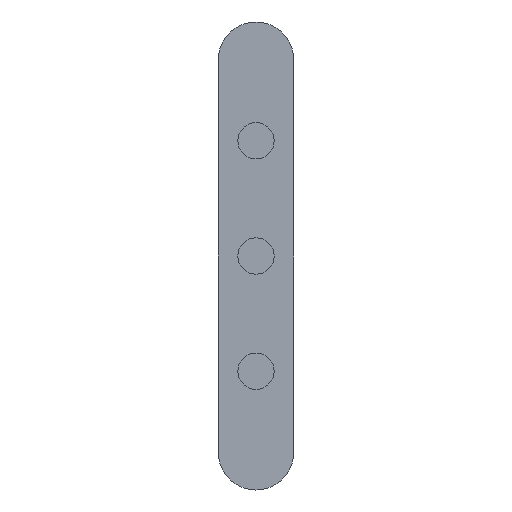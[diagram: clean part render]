
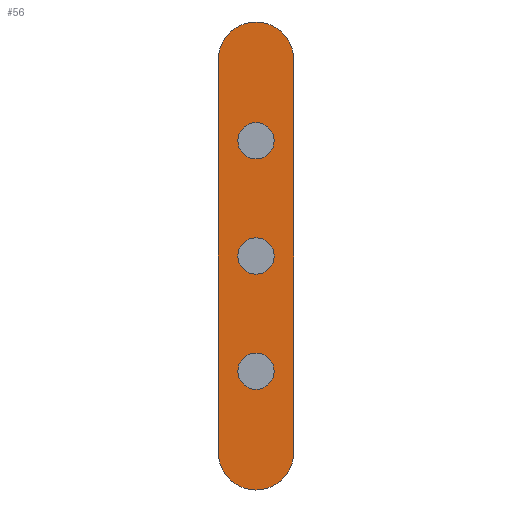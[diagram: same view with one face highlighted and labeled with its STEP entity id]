
A CAD part, left-side view. The second image highlights one B-rep face of the part: STEP entity #56.
In plain terms, the highlighted planar face has unit normal (-1, 0, 0).
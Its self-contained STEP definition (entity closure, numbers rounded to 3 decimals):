
#56=ADVANCED_FACE('',(#94,#96,#98,#100),#102,.F.);
#94=FACE_BOUND('',#95,.T.);
#95=EDGE_LOOP('',(#183,#184,#185,#186));
#96=FACE_BOUND('',#97,.T.);
#97=EDGE_LOOP('',(#187));
#98=FACE_BOUND('',#99,.T.);
#99=EDGE_LOOP('',(#188));
#100=FACE_BOUND('',#101,.T.);
#101=EDGE_LOOP('',(#189));
#102=PLANE('',#103);
#103=AXIS2_PLACEMENT_3D('',#104,#105,#106);
#104=CARTESIAN_POINT('',(10.,0.,0.));
#105=DIRECTION('',(1.,0.,0.));
#106=DIRECTION('',(0.,0.,1.));
#183=ORIENTED_EDGE('',*,*,#227,.F.);
#184=ORIENTED_EDGE('',*,*,#228,.F.);
#185=ORIENTED_EDGE('',*,*,#229,.F.);
#186=ORIENTED_EDGE('',*,*,#230,.F.);
#187=ORIENTED_EDGE('',*,*,#225,.T.);
#188=ORIENTED_EDGE('',*,*,#223,.T.);
#189=ORIENTED_EDGE('',*,*,#221,.T.);
#221=EDGE_CURVE('',#243,#243,#244,.T.);
#223=EDGE_CURVE('',#247,#247,#248,.T.);
#225=EDGE_CURVE('',#251,#251,#252,.T.);
#227=EDGE_CURVE('',#255,#256,#257,.T.);
#228=EDGE_CURVE('',#258,#255,#259,.T.);
#229=EDGE_CURVE('',#260,#258,#261,.T.);
#230=EDGE_CURVE('',#256,#260,#262,.T.);
#243=VERTEX_POINT('',#281);
#244=CIRCLE('',#282,6.);
#247=VERTEX_POINT('',#291);
#248=CIRCLE('',#292,6.);
#251=VERTEX_POINT('',#301);
#252=CIRCLE('',#302,6.);
#255=VERTEX_POINT('',#311);
#256=VERTEX_POINT('',#312);
#257=CIRCLE('',#313,12.5);
#258=VERTEX_POINT('',#317);
#259=LINE('',#318,#319);
#260=VERTEX_POINT('',#321);
#261=CIRCLE('',#322,12.5);
#262=LINE('',#326,#327);
#281=CARTESIAN_POINT('',(10.,6.,213.144));
#282=AXIS2_PLACEMENT_3D('',#283,#284,#285);
#283=CARTESIAN_POINT('',(10.,0.,213.144));
#284=DIRECTION('',(1.,0.,0.));
#285=DIRECTION('',(0.,1.,0.));
#291=CARTESIAN_POINT('',(10.,6.,175.));
#292=AXIS2_PLACEMENT_3D('',#293,#294,#295);
#293=CARTESIAN_POINT('',(10.,0.,175.));
#294=DIRECTION('',(1.,0.,0.));
#295=DIRECTION('',(0.,1.,0.));
#301=CARTESIAN_POINT('',(10.,6.,136.856));
#302=AXIS2_PLACEMENT_3D('',#303,#304,#305);
#303=CARTESIAN_POINT('',(10.,0.,136.856));
#304=DIRECTION('',(1.,0.,0.));
#305=DIRECTION('',(0.,1.,0.));
#311=CARTESIAN_POINT('',(10.,12.5,240.));
#312=CARTESIAN_POINT('',(10.,-12.5,240.));
#313=AXIS2_PLACEMENT_3D('',#314,#315,#316);
#314=CARTESIAN_POINT('',(10.,0.,240.));
#315=DIRECTION('',(1.,0.,0.));
#316=DIRECTION('',(0.,1.,0.));
#317=CARTESIAN_POINT('',(10.,12.5,110.));
#318=CARTESIAN_POINT('',(10.,12.5,110.));
#319=VECTOR('',#320,1.);
#320=DIRECTION('',(0.,0.,1.));
#321=CARTESIAN_POINT('',(10.,-12.5,110.));
#322=AXIS2_PLACEMENT_3D('',#323,#324,#325);
#323=CARTESIAN_POINT('',(10.,0.,110.));
#324=DIRECTION('',(1.,0.,0.));
#325=DIRECTION('',(0.,-1.,0.));
#326=CARTESIAN_POINT('',(10.,-12.5,240.));
#327=VECTOR('',#328,1.);
#328=DIRECTION('',(0.,0.,-1.));
